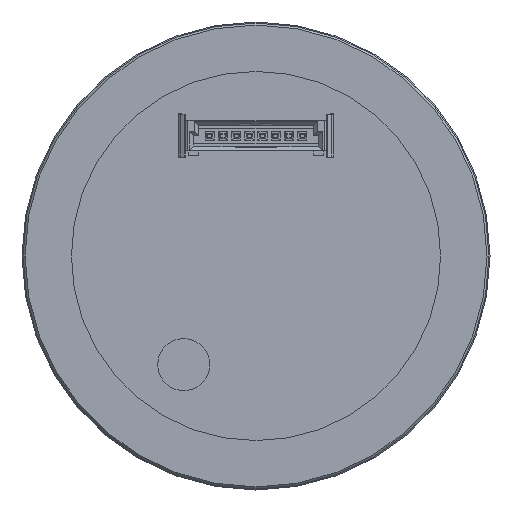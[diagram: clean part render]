
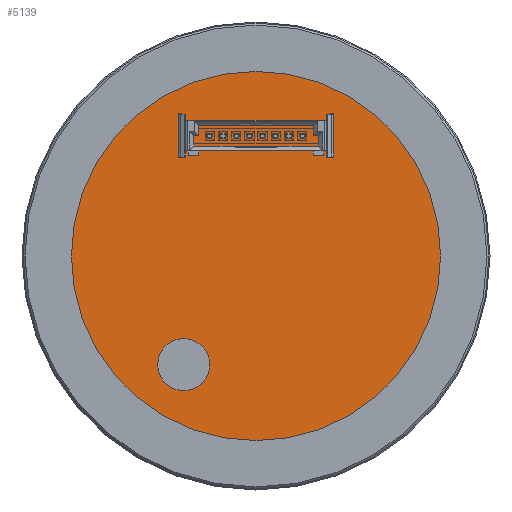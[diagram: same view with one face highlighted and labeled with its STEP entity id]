
A CAD part, front view. The second image highlights one B-rep face of the part: STEP entity #5139.
In plain terms, the highlighted planar face has unit normal (0, -1, 0).
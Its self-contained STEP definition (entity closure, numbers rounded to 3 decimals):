
#675 = CARTESIAN_POINT ( 'NONE',  ( 0., -5., 0. ) ) ;
#817 = CARTESIAN_POINT ( 'NONE',  ( 17.75, -5., 0. ) ) ;
#1983 = CARTESIAN_POINT ( 'NONE',  ( -9.45, -5., -10.45 ) ) ;
#2648 = DIRECTION ( 'NONE',  ( -1., 0., 0. ) ) ;
#3561 = VERTEX_POINT ( 'NONE', #7576 ) ;
#3568 = DIRECTION ( 'NONE',  ( 1., 0., 0. ) ) ;
#4362 = EDGE_CURVE ( 'NONE', #28905, #14280, #22535, .T. ) ;
#4829 = EDGE_LOOP ( 'NONE', ( #14162, #20714 ) ) ;
#5139 = ADVANCED_FACE ( 'NONE', ( #32141, #6856 ), #8273, .F. ) ;
#6856 = FACE_BOUND ( 'NONE', #30981, .T. ) ;
#7576 = CARTESIAN_POINT ( 'NONE',  ( -17.75, -5., 0. ) ) ;
#8273 = PLANE ( 'NONE',  #18597 ) ;
#9262 = EDGE_CURVE ( 'NONE', #15467, #3561, #20782, .T. ) ;
#10055 = AXIS2_PLACEMENT_3D ( 'NONE', #13191, #33038, #16022 ) ;
#11350 = CIRCLE ( 'NONE', #28792, 17.75 ) ;
#13191 = CARTESIAN_POINT ( 'NONE',  ( -6.95, -5., -10.45 ) ) ;
#13843 = DIRECTION ( 'NONE',  ( 0., -1., 0. ) ) ;
#14162 = ORIENTED_EDGE ( 'NONE', *, *, #9262, .T. ) ;
#14280 = VERTEX_POINT ( 'NONE', #1983 ) ;
#14326 = DIRECTION ( 'NONE',  ( 0., -1., 0. ) ) ;
#15467 = VERTEX_POINT ( 'NONE', #817 ) ;
#15930 = AXIS2_PLACEMENT_3D ( 'NONE', #31293, #14326, #34142 ) ;
#16022 = DIRECTION ( 'NONE',  ( -1., 0., 0. ) ) ;
#18597 = AXIS2_PLACEMENT_3D ( 'NONE', #36614, #19625, #2648 ) ;
#19124 = EDGE_CURVE ( 'NONE', #3561, #15467, #11350, .T. ) ;
#19625 = DIRECTION ( 'NONE',  ( 0., 1., 0. ) ) ;
#20517 = DIRECTION ( 'NONE',  ( 0., -1., 0. ) ) ;
#20714 = ORIENTED_EDGE ( 'NONE', *, *, #19124, .T. ) ;
#20782 = CIRCLE ( 'NONE', #34081, 17.75 ) ;
#22535 = CIRCLE ( 'NONE', #15930, 2.5 ) ;
#22931 = ORIENTED_EDGE ( 'NONE', *, *, #4362, .F. ) ;
#23748 = CIRCLE ( 'NONE', #10055, 2.5 ) ;
#24579 = ORIENTED_EDGE ( 'NONE', *, *, #36759, .F. ) ;
#25326 = CARTESIAN_POINT ( 'NONE',  ( -4.45, -5., -10.45 ) ) ;
#28792 = AXIS2_PLACEMENT_3D ( 'NONE', #675, #20517, #3568 ) ;
#28905 = VERTEX_POINT ( 'NONE', #25326 ) ;
#30804 = CARTESIAN_POINT ( 'NONE',  ( 0., -5., 0. ) ) ;
#30981 = EDGE_LOOP ( 'NONE', ( #24579, #22931 ) ) ;
#31293 = CARTESIAN_POINT ( 'NONE',  ( -6.95, -5., -10.45 ) ) ;
#32141 = FACE_OUTER_BOUND ( 'NONE', #4829, .T. ) ;
#33038 = DIRECTION ( 'NONE',  ( 0., -1., 0. ) ) ;
#33683 = DIRECTION ( 'NONE',  ( 1., 0., 0. ) ) ;
#34081 = AXIS2_PLACEMENT_3D ( 'NONE', #30804, #13843, #33683 ) ;
#34142 = DIRECTION ( 'NONE',  ( -1., 0., 0. ) ) ;
#36614 = CARTESIAN_POINT ( 'NONE',  ( -17.75, -5., 0. ) ) ;
#36759 = EDGE_CURVE ( 'NONE', #14280, #28905, #23748, .T. ) ;
